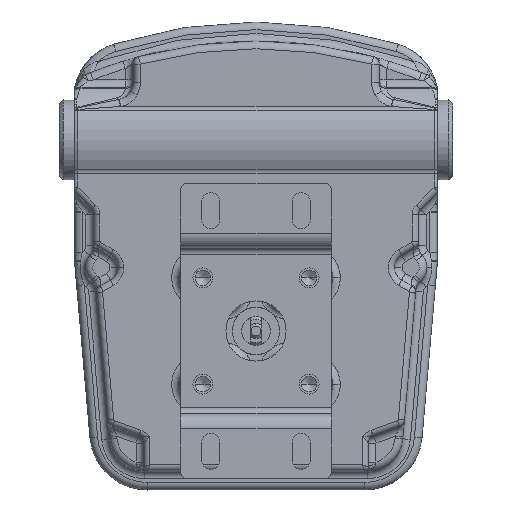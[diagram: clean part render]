
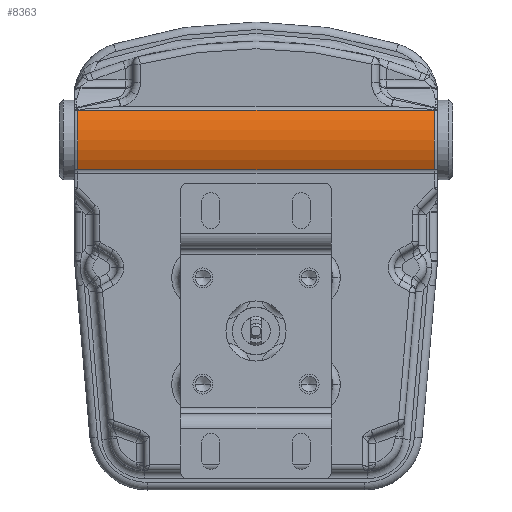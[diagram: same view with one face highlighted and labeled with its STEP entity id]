
A CAD part, front view. The second image highlights one B-rep face of the part: STEP entity #8363.
In plain terms, the highlighted cylindrical face has radius 20.637 mm (diameter 41.275 mm), a partial arc.
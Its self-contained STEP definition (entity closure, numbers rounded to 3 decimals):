
#20 = AXIS2_PLACEMENT_3D ( 'NONE', #40474, #26210, #33112 ) ;
#2373 = CARTESIAN_POINT ( 'NONE',  ( 59.182, 34.485, 53.573 ) ) ;
#3149 = CARTESIAN_POINT ( 'NONE',  ( 82.871, 52.578, 63.5 ) ) ;
#3758 = DIRECTION ( 'NONE',  ( 0., 0., 1. ) ) ;
#4948 = VERTEX_POINT ( 'NONE', #19332 ) ;
#7310 = VECTOR ( 'NONE', #41148, 1000. ) ;
#8363 = ADVANCED_FACE ( 'NONE', ( #38072 ), #26792, .T. ) ;
#10225 = ORIENTED_EDGE ( 'NONE', *, *, #11568, .T. ) ;
#10416 = DIRECTION ( 'NONE',  ( 1., 0., 0. ) ) ;
#11568 = EDGE_CURVE ( 'NONE', #30416, #34983, #40626, .T. ) ;
#11808 = CARTESIAN_POINT ( 'NONE',  ( 59.182, 52.578, 63.5 ) ) ;
#11824 = CARTESIAN_POINT ( 'NONE',  ( -59.182, 34.485, 53.573 ) ) ;
#12308 = CARTESIAN_POINT ( 'NONE',  ( 59.182, 34.485, 73.427 ) ) ;
#19332 = CARTESIAN_POINT ( 'NONE',  ( -59.182, 34.485, 73.427 ) ) ;
#22172 = VECTOR ( 'NONE', #10416, 1000. ) ;
#22371 = DIRECTION ( 'NONE',  ( 0., 0., -1. ) ) ;
#22850 = ORIENTED_EDGE ( 'NONE', *, *, #43783, .T. ) ;
#24472 = CIRCLE ( 'NONE', #29045, 20.638 ) ;
#25419 = AXIS2_PLACEMENT_3D ( 'NONE', #3149, #42671, #3758 ) ;
#25720 = LINE ( 'NONE', #26411, #7310 ) ;
#26210 = DIRECTION ( 'NONE',  ( 1., 0., 0. ) ) ;
#26411 = CARTESIAN_POINT ( 'NONE',  ( 82.871, 34.485, 73.427 ) ) ;
#26455 = ORIENTED_EDGE ( 'NONE', *, *, #43304, .T. ) ;
#26792 = CYLINDRICAL_SURFACE ( 'NONE', #25419, 20.638 ) ;
#27551 = ORIENTED_EDGE ( 'NONE', *, *, #38639, .T. ) ;
#28987 = CIRCLE ( 'NONE', #20, 20.638 ) ;
#29045 = AXIS2_PLACEMENT_3D ( 'NONE', #11808, #33322, #22371 ) ;
#30416 = VERTEX_POINT ( 'NONE', #11824 ) ;
#31885 = EDGE_LOOP ( 'NONE', ( #26455, #22850, #10225, #27551 ) ) ;
#33112 = DIRECTION ( 'NONE',  ( 0., 0., 1. ) ) ;
#33322 = DIRECTION ( 'NONE',  ( -1., 0., 0. ) ) ;
#34639 = VERTEX_POINT ( 'NONE', #12308 ) ;
#34983 = VERTEX_POINT ( 'NONE', #2373 ) ;
#38072 = FACE_OUTER_BOUND ( 'NONE', #31885, .T. ) ;
#38639 = EDGE_CURVE ( 'NONE', #34983, #34639, #24472, .T. ) ;
#39620 = CARTESIAN_POINT ( 'NONE',  ( 82.871, 34.485, 53.573 ) ) ;
#40474 = CARTESIAN_POINT ( 'NONE',  ( -59.182, 52.578, 63.5 ) ) ;
#40626 = LINE ( 'NONE', #39620, #22172 ) ;
#41148 = DIRECTION ( 'NONE',  ( -1., 0., 0. ) ) ;
#42671 = DIRECTION ( 'NONE',  ( -1., 0., 0. ) ) ;
#43304 = EDGE_CURVE ( 'NONE', #34639, #4948, #25720, .T. ) ;
#43783 = EDGE_CURVE ( 'NONE', #4948, #30416, #28987, .T. ) ;
